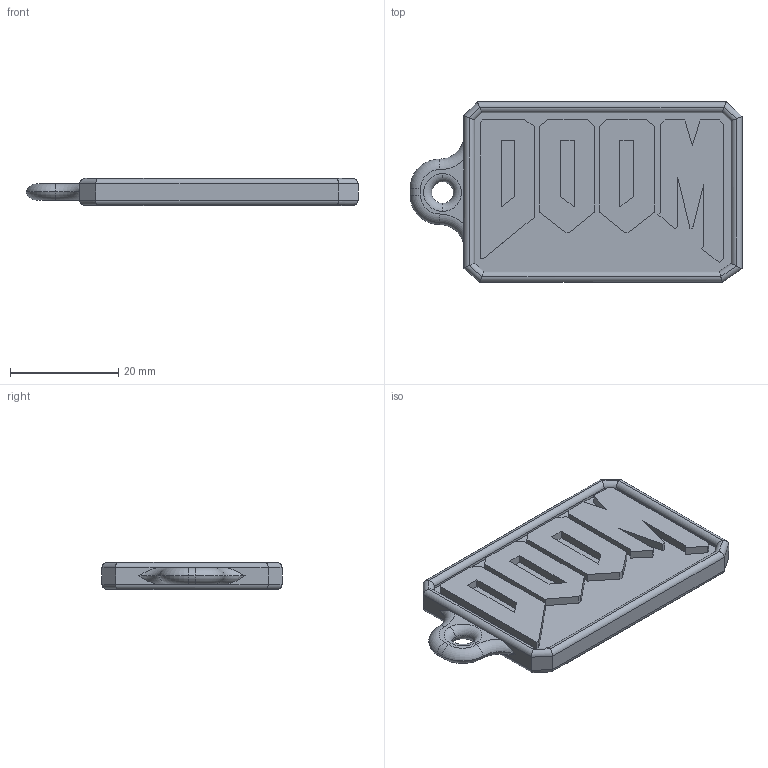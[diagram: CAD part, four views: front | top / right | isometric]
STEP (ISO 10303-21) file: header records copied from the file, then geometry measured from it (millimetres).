
FILE_DESCRIPTION (( 'STEP AP203' ), '1' );
FILE_NAME ('DOOM Keychain.STEP', '2025-01-13T22:04:21', ( '' ), ( '' ), 'SwSTEP 2.0', 'SolidWorks 2024', '' );
FILE_SCHEMA (( 'CONFIG_CONTROL_DESIGN' ));
Length unit declared in the file: millimetre
Products named in the file (1): Doom Logo Small 01b
Bounding box: 61.38 x 33.31 x 5 mm (x, y, z)
Volume: 6688.7 mm3; surface area: 5730.3 mm2
Topology: 1 solids, 1 shells, 196 faces, 486 edges, 306 vertices
Faces by surface type: plane 150, cylinder 34, torus 12
Entity records: 5751 total; most frequent: CARTESIAN_POINT 1119, ORIENTED_EDGE 972, DIRECTION 872, EDGE_CURVE 486, VECTOR 418, LINE 418, VERTEX_POINT 306, AXIS2_PLACEMENT_3D 227
